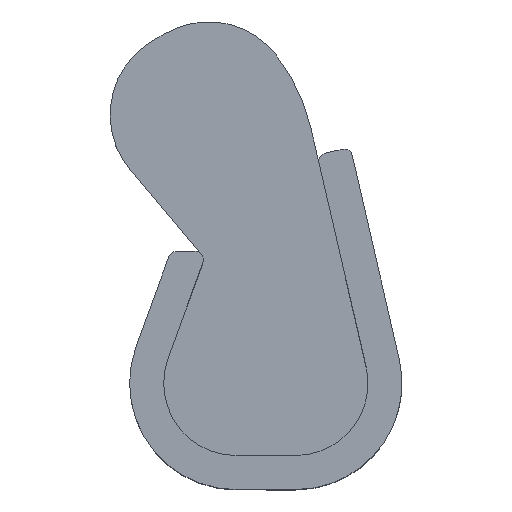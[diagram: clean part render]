
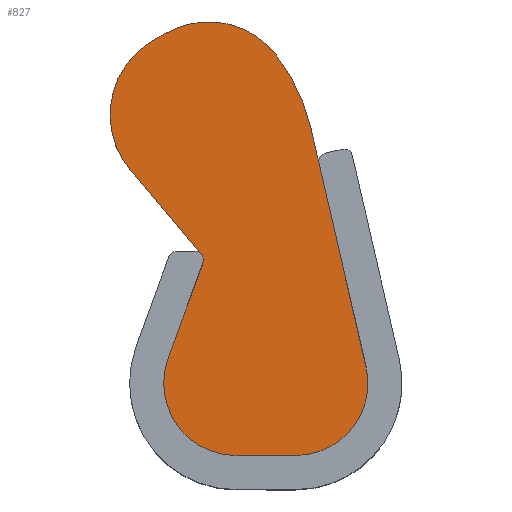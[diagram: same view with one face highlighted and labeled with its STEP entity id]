
A CAD part, top view. The second image highlights one B-rep face of the part: STEP entity #827.
In plain terms, the highlighted planar face has unit normal (0, 0, 1).
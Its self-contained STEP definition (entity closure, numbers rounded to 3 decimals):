
#13 = AXIS2_PLACEMENT_3D ( 'NONE', #742, #152, #417 ) ;
#24 = DIRECTION ( 'NONE',  ( -0.643, 0.766, 0. ) ) ;
#25 = DIRECTION ( 'NONE',  ( 0., 0., -1. ) ) ;
#38 = AXIS2_PLACEMENT_3D ( 'NONE', #431, #309, #631 ) ;
#42 = VERTEX_POINT ( 'NONE', #820 ) ;
#52 = CARTESIAN_POINT ( 'NONE',  ( 3.903, 10.22, 1. ) ) ;
#62 = CARTESIAN_POINT ( 'NONE',  ( 0.337, 7.475, 1. ) ) ;
#67 = CARTESIAN_POINT ( 'NONE',  ( 2.146, 5.529, 1. ) ) ;
#78 = DIRECTION ( 'NONE',  ( -0.342, -0.94, 0. ) ) ;
#81 = LINE ( 'NONE', #351, #579 ) ;
#90 = CARTESIAN_POINT ( 'NONE',  ( 2.959, 0.8, 1. ) ) ;
#106 = ORIENTED_EDGE ( 'NONE', *, *, #451, .T. ) ;
#108 = EDGE_CURVE ( 'NONE', #253, #42, #551, .T. ) ;
#110 = ORIENTED_EDGE ( 'NONE', *, *, #344, .T. ) ;
#118 = DIRECTION ( 'NONE',  ( 0.606, -0.795, 0. ) ) ;
#119 = ORIENTED_EDGE ( 'NONE', *, *, #611, .F. ) ;
#124 = CARTESIAN_POINT ( 'NONE',  ( 1.362, 3.081, 1. ) ) ;
#131 = AXIS2_PLACEMENT_3D ( 'NONE', #62, #516, #679 ) ;
#152 = DIRECTION ( 'NONE',  ( 0., 0., 1. ) ) ;
#159 = CARTESIAN_POINT ( 'NONE',  ( 1.993, 5.4, 1. ) ) ;
#175 = CIRCLE ( 'NONE', #131, 4.5 ) ;
#182 = VERTEX_POINT ( 'NONE', #809 ) ;
#185 = ORIENTED_EDGE ( 'NONE', *, *, #196, .F. ) ;
#187 = LINE ( 'NONE', #497, #638 ) ;
#188 = VECTOR ( 'NONE', #24, 1000. ) ;
#196 = EDGE_CURVE ( 'NONE', #299, #410, #240, .T. ) ;
#202 = AXIS2_PLACEMENT_3D ( 'NONE', #751, #641, #841 ) ;
#216 = CARTESIAN_POINT ( 'NONE',  ( 4.359, 2.5, 1. ) ) ;
#218 = FACE_OUTER_BOUND ( 'NONE', #465, .T. ) ;
#238 = AXIS2_PLACEMENT_3D ( 'NONE', #686, #362, #118 ) ;
#240 = CIRCLE ( 'NONE', #238, 2. ) ;
#244 = CARTESIAN_POINT ( 'NONE',  ( 2.318, 9., 1. ) ) ;
#253 = VERTEX_POINT ( 'NONE', #838 ) ;
#260 = LINE ( 'NONE', #334, #621 ) ;
#275 = VERTEX_POINT ( 'NONE', #446 ) ;
#286 = CARTESIAN_POINT ( 'NONE',  ( 5.677, 4.35, 1. ) ) ;
#287 = ORIENTED_EDGE ( 'NONE', *, *, #486, .T. ) ;
#297 = DIRECTION ( 'NONE',  ( -0.225, 0.974, 0. ) ) ;
#299 = VERTEX_POINT ( 'NONE', #637 ) ;
#309 = DIRECTION ( 'NONE',  ( 0., 0., 1. ) ) ;
#314 = CIRCLE ( 'NONE', #38, 1.7 ) ;
#320 = ORIENTED_EDGE ( 'NONE', *, *, #108, .T. ) ;
#329 = LINE ( 'NONE', #67, #188 ) ;
#334 = CARTESIAN_POINT ( 'NONE',  ( 2.243, 5.501, 1. ) ) ;
#338 = VECTOR ( 'NONE', #297, 1000. ) ;
#344 = EDGE_CURVE ( 'NONE', #182, #702, #260, .T. ) ;
#347 = DIRECTION ( 'NONE',  ( 1., 0., 0. ) ) ;
#351 = CARTESIAN_POINT ( 'NONE',  ( 3.098, 0.8, 1. ) ) ;
#353 = DIRECTION ( 'NONE',  ( 0.94, -0.342, 0. ) ) ;
#362 = DIRECTION ( 'NONE',  ( 0., 0., -1. ) ) ;
#372 = DIRECTION ( 'NONE',  ( 0.225, -0.974, 0. ) ) ;
#383 = VERTEX_POINT ( 'NONE', #661 ) ;
#410 = VERTEX_POINT ( 'NONE', #808 ) ;
#417 = DIRECTION ( 'NONE',  ( 1., 0., 0. ) ) ;
#431 = CARTESIAN_POINT ( 'NONE',  ( 2.959, 2.5, 1. ) ) ;
#444 = DIRECTION ( 'NONE',  ( 0., 0., -1. ) ) ;
#446 = CARTESIAN_POINT ( 'NONE',  ( 4.722, 8.487, 1. ) ) ;
#451 = EDGE_CURVE ( 'NONE', #469, #182, #842, .T. ) ;
#465 = EDGE_LOOP ( 'NONE', ( #320, #119, #470, #839, #724, #185, #569, #106, #110, #491, #786, #287 ) ) ;
#469 = VERTEX_POINT ( 'NONE', #607 ) ;
#470 = ORIENTED_EDGE ( 'NONE', *, *, #743, .F. ) ;
#478 = PLANE ( 'NONE',  #13 ) ;
#486 = EDGE_CURVE ( 'NONE', #383, #253, #592, .T. ) ;
#491 = ORIENTED_EDGE ( 'NONE', *, *, #603, .T. ) ;
#493 = DIRECTION ( 'NONE',  ( 0., 0., 1. ) ) ;
#497 = CARTESIAN_POINT ( 'NONE',  ( 4.722, 8.487, 1. ) ) ;
#516 = DIRECTION ( 'NONE',  ( 0., 0., -1. ) ) ;
#531 = VERTEX_POINT ( 'NONE', #90 ) ;
#537 = AXIS2_PLACEMENT_3D ( 'NONE', #216, #493, #805 ) ;
#544 = EDGE_CURVE ( 'NONE', #410, #690, #828, .T. ) ;
#551 = LINE ( 'NONE', #286, #338 ) ;
#569 = ORIENTED_EDGE ( 'NONE', *, *, #771, .F. ) ;
#573 = VERTEX_POINT ( 'NONE', #52 ) ;
#579 = VECTOR ( 'NONE', #347, 1000. ) ;
#592 = CIRCLE ( 'NONE', #537, 1.7 ) ;
#594 = AXIS2_PLACEMENT_3D ( 'NONE', #244, #444, #770 ) ;
#603 = EDGE_CURVE ( 'NONE', #702, #531, #314, .T. ) ;
#607 = CARTESIAN_POINT ( 'NONE',  ( 2.146, 5.529, 1. ) ) ;
#611 = EDGE_CURVE ( 'NONE', #275, #42, #187, .T. ) ;
#621 = VECTOR ( 'NONE', #78, 1000. ) ;
#623 = AXIS2_PLACEMENT_3D ( 'NONE', #159, #25, #353 ) ;
#631 = DIRECTION ( 'NONE',  ( 0.938, -0.346, 0. ) ) ;
#637 = CARTESIAN_POINT ( 'NONE',  ( 0.468, 7.529, 1. ) ) ;
#638 = VECTOR ( 'NONE', #372, 1000. ) ;
#641 = DIRECTION ( 'NONE',  ( 0., 0., -1. ) ) ;
#643 = EDGE_CURVE ( 'NONE', #690, #573, #749, .T. ) ;
#661 = CARTESIAN_POINT ( 'NONE',  ( 4.359, 0.8, 1. ) ) ;
#679 = DIRECTION ( 'NONE',  ( -0.974, -0.225, 0. ) ) ;
#686 = CARTESIAN_POINT ( 'NONE',  ( 2., 8.814, 1. ) ) ;
#690 = VERTEX_POINT ( 'NONE', #711 ) ;
#702 = VERTEX_POINT ( 'NONE', #124 ) ;
#711 = CARTESIAN_POINT ( 'NONE',  ( 1.53, 10.838, 1. ) ) ;
#724 = ORIENTED_EDGE ( 'NONE', *, *, #544, .F. ) ;
#742 = CARTESIAN_POINT ( 'NONE',  ( 3.236, 5.331, 1. ) ) ;
#743 = EDGE_CURVE ( 'NONE', #573, #275, #175, .T. ) ;
#749 = CIRCLE ( 'NONE', #594, 2. ) ;
#751 = CARTESIAN_POINT ( 'NONE',  ( 2.909, 7.621, 1. ) ) ;
#770 = DIRECTION ( 'NONE',  ( -0.792, -0.61, 0. ) ) ;
#771 = EDGE_CURVE ( 'NONE', #469, #299, #329, .T. ) ;
#786 = ORIENTED_EDGE ( 'NONE', *, *, #804, .T. ) ;
#804 = EDGE_CURVE ( 'NONE', #531, #383, #81, .T. ) ;
#805 = DIRECTION ( 'NONE',  ( 0., 1., 0. ) ) ;
#808 = CARTESIAN_POINT ( 'NONE',  ( 0.788, 10.405, 1. ) ) ;
#809 = CARTESIAN_POINT ( 'NONE',  ( 2.181, 5.332, 1. ) ) ;
#820 = CARTESIAN_POINT ( 'NONE',  ( 4.912, 7.665, 1. ) ) ;
#827 = ADVANCED_FACE ( 'NONE', ( #218 ), #478, .T. ) ;
#828 = CIRCLE ( 'NONE', #202, 3.5 ) ;
#838 = CARTESIAN_POINT ( 'NONE',  ( 6.016, 2.882, 1. ) ) ;
#839 = ORIENTED_EDGE ( 'NONE', *, *, #643, .F. ) ;
#841 = DIRECTION ( 'NONE',  ( 0.394, -0.919, 0. ) ) ;
#842 = CIRCLE ( 'NONE', #623, 0.2 ) ;
